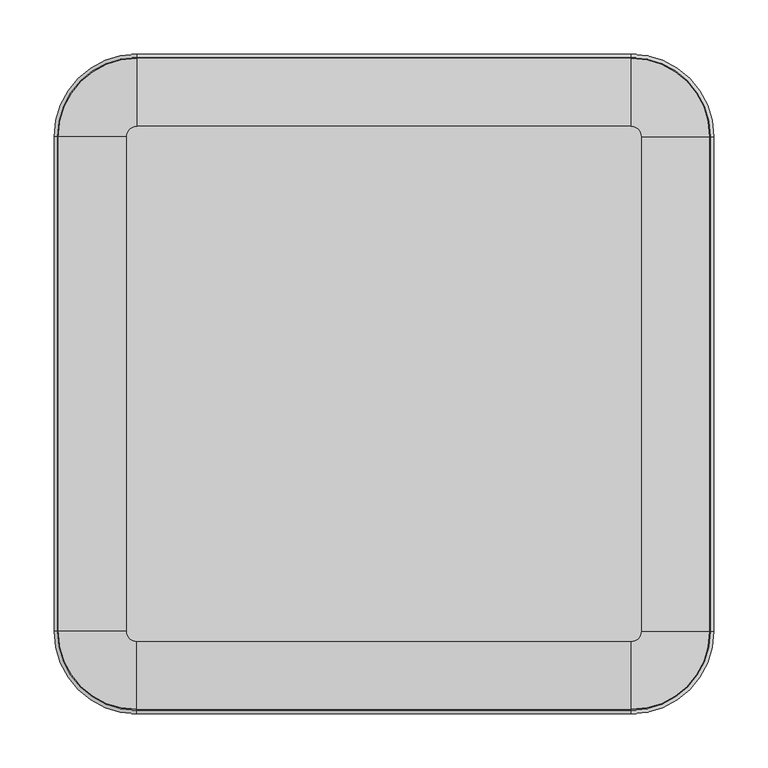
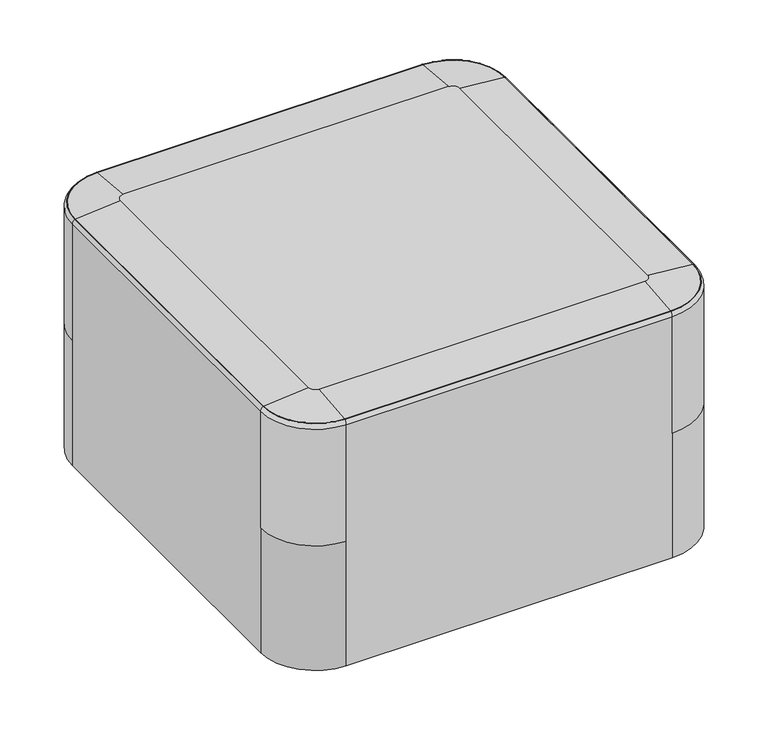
"""IFC4 building model written with IfcOpenShell, lengths in millimetres: furniture geometry, Indiana-Otty-Ottoman_Square : 840-2415SO."""

from ifc_helpers import new_model, si_unit, point, frame, origin, place, context, project, spatial, polyline, circle_curve, ellipse_curve, trimmed, source, transform, mapped, element, save
from ifc_brep_helpers import plane_surface, cylinder_surface, revolved_surface, advanced_brep


def furniture_f3731884(model_context):
    return source(origin(), model_context, "Body", "AdvancedBrep", [
        advanced_brep(
        [(0.0, -250.825, 19.8875), (0.0, -273.325, 19.8875), (0.0, -228.325, 19.8875), (0.0, -272.8765082, 4.2458827), (0.0, -228.7734918, 4.2458827), (0.0, -268.3913665, -0.1125), (0.0, -233.2586335, -0.1125), (0.0, -261.0926178, -0.1125), (0.0, -240.5573822, -0.1125), (0.0, -257.1981417, 3.9179615), (0.0, -244.4518583, 3.9179615), (0.0, -250.825, 3.9179615)],
        [
            (0, 1),
            (1, 2, circle_curve(frame((0.0, -250.825, 19.8875), z_axis=(0.0, 0.0, 1.0), x_axis=(0.0, -1.0, 0.0)), 22.5)),
            (2, 0),
            (2, 1, circle_curve(frame((0.0, -250.825, 19.8875), z_axis=(0.0, 0.0, 1.0), x_axis=(0.0, -1.0, 0.0)), 22.5)),
            (1, 3),
            (3, 4, circle_curve(frame((0.0, -250.825, 4.2458827), z_axis=(0.0, 0.0, 1.0), x_axis=(0.0, -1.0, 0.0)), 22.0515082)),
            (4, 2),
            (4, 3, circle_curve(frame((0.0, -250.825, 4.2458827), z_axis=(0.0, 0.0, 1.0), x_axis=(0.0, -1.0, 0.0)), 22.0515082)),
            (3, 5, circle_curve(frame((0.0, -268.3913665, 4.3744851), z_axis=(1.0, 0.0, 0.0), x_axis=(0.0, 1.0, 0.0)), 4.4869851)),
            (5, 6, circle_curve(frame((0.0, -250.825, -0.1125), z_axis=(0.0, 0.0, 1.0), x_axis=(0.0, -1.0, 0.0)), 17.5663665)),
            (6, 4, circle_curve(frame((0.0, -233.2586335, 4.3744851), z_axis=(1.0, 0.0, 0.0), x_axis=(0.0, -1.0, 0.0)), 4.4869851)),
            (6, 5, circle_curve(frame((0.0, -250.825, -0.1125), z_axis=(0.0, 0.0, 1.0), x_axis=(0.0, -1.0, 0.0)), 17.5663665)),
            (5, 7),
            (7, 8, circle_curve(frame((0.0, -250.825, -0.1125), z_axis=(0.0, 0.0, 1.0), x_axis=(0.0, -1.0, 0.0)), 10.2676178)),
            (8, 6),
            (8, 7, circle_curve(frame((0.0, -250.825, -0.1125), z_axis=(0.0, 0.0, 1.0), x_axis=(0.0, -1.0, 0.0)), 10.2676178)),
            (7, 9, circle_curve(frame((0.0, -261.0926178, 3.7842702), z_axis=(1.0, 0.0, 0.0), x_axis=(0.0, 1.0, 0.0)), 3.8967702)),
            (9, 10, circle_curve(frame((0.0, -250.825, 3.9179615), z_axis=(0.0, 0.0, 1.0), x_axis=(0.0, -1.0, 0.0)), 6.3731417)),
            (10, 8, circle_curve(frame((0.0, -240.5573822, 3.7842702), z_axis=(1.0, 0.0, 0.0), x_axis=(0.0, -1.0, 0.0)), 3.8967702)),
            (10, 9, circle_curve(frame((0.0, -250.825, 3.9179615), z_axis=(0.0, 0.0, 1.0), x_axis=(0.0, -1.0, 0.0)), 6.3731417)),
            (9, 11),
            (11, 10),
        ],
        [
            plane_surface(frame((0.0, -250.825, 19.8875), z_axis=(0.0, 0.0, 1.0), x_axis=(0.0, -1.0, 0.0))),
            revolved_surface(polyline([(0.0, -272.8765082, 4.2458827), (0.0, -273.325, 19.8875)]), (0.0, -250.825, 31.0803862), (0.0, 0.0, 1.0)),
            revolved_surface(trimmed(ellipse_curve(frame((0.0, -268.3913665, 4.3744851), z_axis=(-1.0, 0.0, 0.0), x_axis=(0.0, 1.0, 0.0)), 4.4869851, 4.4869851), [point((0.0, -268.3913665, -0.1125))], [point((0.0, -272.8765082, 4.2458827))], True, "CARTESIAN"), (0.0, -250.825, 31.0803862), (0.0, 0.0, 1.0)),
            plane_surface(frame((0.0, -250.825, -0.1125), z_axis=(0.0, 0.0, -1.0), x_axis=(0.0, -1.0, 0.0))),
            revolved_surface(trimmed(ellipse_curve(frame((0.0, -261.0926178, 3.7842702), z_axis=(-1.0, 0.0, 0.0), x_axis=(0.0, 1.0, 0.0)), 3.8967702, 3.8967702), [point((0.0, -257.1981417, 3.9179615))], [point((0.0, -261.0926178, -0.1125))], True, "CARTESIAN"), (0.0, -250.825, 31.0803862), (0.0, 0.0, 1.0)),
            plane_surface(frame((0.0, -250.825, 3.9179615), z_axis=(0.0, 0.0, -1.0), x_axis=(0.0, -1.0, 0.0))),
        ],
        [
            (0, [[1, 2, 3]]),
            (0, [[-3, 4, -1]]),
            (1, [[-2, 5, 6, 7]]),
            (1, [[-4, -7, 8, -5]]),
            (2, [[-6, 9, 10, 11]]),
            (2, [[-8, -11, 12, -9]]),
            (3, [[-10, 13, 14, 15]]),
            (3, [[-12, -15, 16, -13]]),
            (4, [[-14, 17, 18, 19]]),
            (4, [[-16, -19, 20, -17]]),
            (5, [[-18, 21, 22]]),
            (5, [[-20, -22, -21]]),
        ],
    ),
        advanced_brep(
        [(0.0, 250.825, 19.8875), (0.0, 228.325, 19.8875), (0.0, 273.325, 19.8875), (0.0, 228.7734918, 4.2458827), (0.0, 272.8765082, 4.2458827), (0.0, 233.2586335, -0.1125), (0.0, 268.3913665, -0.1125), (0.0, 240.5573822, -0.1125), (0.0, 261.0926178, -0.1125), (0.0, 244.4518583, 3.9179615), (0.0, 257.1981417, 3.9179615), (0.0, 250.825, 3.9179615)],
        [
            (0, 1),
            (1, 2, circle_curve(frame((0.0, 250.825, 19.8875), z_axis=(0.0, 0.0, 1.0), x_axis=(0.0, -1.0, 0.0)), 22.5)),
            (2, 0),
            (2, 1, circle_curve(frame((0.0, 250.825, 19.8875), z_axis=(0.0, 0.0, 1.0), x_axis=(0.0, -1.0, 0.0)), 22.5)),
            (1, 3),
            (3, 4, circle_curve(frame((0.0, 250.825, 4.2458827), z_axis=(0.0, 0.0, 1.0), x_axis=(0.0, -1.0, 0.0)), 22.0515082)),
            (4, 2),
            (4, 3, circle_curve(frame((0.0, 250.825, 4.2458827), z_axis=(0.0, 0.0, 1.0), x_axis=(0.0, -1.0, 0.0)), 22.0515082)),
            (3, 5, circle_curve(frame((0.0, 233.2586335, 4.3744851), z_axis=(1.0, 0.0, 0.0), x_axis=(0.0, 1.0, 0.0)), 4.4869851)),
            (5, 6, circle_curve(frame((0.0, 250.825, -0.1125), z_axis=(0.0, 0.0, 1.0), x_axis=(0.0, -1.0, 0.0)), 17.5663665)),
            (6, 4, circle_curve(frame((0.0, 268.3913665, 4.3744851), z_axis=(1.0, 0.0, 0.0), x_axis=(0.0, -1.0, 0.0)), 4.4869851)),
            (6, 5, circle_curve(frame((0.0, 250.825, -0.1125), z_axis=(0.0, 0.0, 1.0), x_axis=(0.0, -1.0, 0.0)), 17.5663665)),
            (5, 7),
            (7, 8, circle_curve(frame((0.0, 250.825, -0.1125), z_axis=(0.0, 0.0, 1.0), x_axis=(0.0, -1.0, 0.0)), 10.2676178)),
            (8, 6),
            (8, 7, circle_curve(frame((0.0, 250.825, -0.1125), z_axis=(0.0, 0.0, 1.0), x_axis=(0.0, -1.0, 0.0)), 10.2676178)),
            (7, 9, circle_curve(frame((0.0, 240.5573822, 3.7842702), z_axis=(1.0, 0.0, 0.0), x_axis=(0.0, 1.0, 0.0)), 3.8967702)),
            (9, 10, circle_curve(frame((0.0, 250.825, 3.9179615), z_axis=(0.0, 0.0, 1.0), x_axis=(0.0, -1.0, 0.0)), 6.3731417)),
            (10, 8, circle_curve(frame((0.0, 261.0926178, 3.7842702), z_axis=(1.0, 0.0, 0.0), x_axis=(0.0, -1.0, 0.0)), 3.8967702)),
            (10, 9, circle_curve(frame((0.0, 250.825, 3.9179615), z_axis=(0.0, 0.0, 1.0), x_axis=(0.0, -1.0, 0.0)), 6.3731417)),
            (9, 11),
            (11, 10),
        ],
        [
            plane_surface(frame((0.0, 250.825, 19.8875), z_axis=(0.0, 0.0, 1.0), x_axis=(0.0, -1.0, 0.0))),
            revolved_surface(polyline([(0.0, 228.7734918, 4.2458827), (0.0, 228.325, 19.8875)]), (0.0, 250.825, 31.0803862), (0.0, 0.0, 1.0)),
            revolved_surface(trimmed(ellipse_curve(frame((0.0, 233.2586335, 4.3744851), z_axis=(-1.0, 0.0, 0.0), x_axis=(0.0, 1.0, 0.0)), 4.4869851, 4.4869851), [point((0.0, 233.2586335, -0.1125))], [point((0.0, 228.7734918, 4.2458827))], True, "CARTESIAN"), (0.0, 250.825, 31.0803862), (0.0, 0.0, 1.0)),
            plane_surface(frame((0.0, 250.825, -0.1125), z_axis=(0.0, 0.0, -1.0), x_axis=(0.0, -1.0, 0.0))),
            revolved_surface(trimmed(ellipse_curve(frame((0.0, 240.5573822, 3.7842702), z_axis=(-1.0, 0.0, 0.0), x_axis=(0.0, 1.0, 0.0)), 3.8967702, 3.8967702), [point((0.0, 244.4518583, 3.9179615))], [point((0.0, 240.5573822, -0.1125))], True, "CARTESIAN"), (0.0, 250.825, 31.0803862), (0.0, 0.0, 1.0)),
            plane_surface(frame((0.0, 250.825, 3.9179615), z_axis=(0.0, 0.0, -1.0), x_axis=(0.0, -1.0, 0.0))),
        ],
        [
            (0, [[1, 2, 3]]),
            (0, [[-3, 4, -1]]),
            (1, [[-2, 5, 6, 7]]),
            (1, [[-4, -7, 8, -5]]),
            (2, [[-6, 9, 10, 11]]),
            (2, [[-8, -11, 12, -9]]),
            (3, [[-10, 13, 14, 15]]),
            (3, [[-12, -15, 16, -13]]),
            (4, [[-14, 17, 18, 19]]),
            (4, [[-16, -19, 20, -17]]),
            (5, [[-18, 21, 22]]),
            (5, [[-20, -22, -21]]),
        ],
    ),
        advanced_brep(
        [(250.825, -250.825, 19.8875), (250.825, -273.325, 19.8875), (250.825, -228.325, 19.8875), (250.825, -272.8765082, 4.2458827), (250.825, -228.7734918, 4.2458827), (250.825, -268.3913665, -0.1125), (250.825, -233.2586335, -0.1125), (250.825, -261.0926178, -0.1125), (250.825, -240.5573822, -0.1125), (250.825, -257.1981417, 3.9179615), (250.825, -244.4518583, 3.9179615), (250.825, -250.825, 3.9179615)],
        [
            (0, 1),
            (1, 2, circle_curve(frame((250.825, -250.825, 19.8875), z_axis=(0.0, 0.0, 1.0), x_axis=(0.0, -1.0, 0.0)), 22.5)),
            (2, 0),
            (2, 1, circle_curve(frame((250.825, -250.825, 19.8875), z_axis=(0.0, 0.0, 1.0), x_axis=(0.0, -1.0, 0.0)), 22.5)),
            (1, 3),
            (3, 4, circle_curve(frame((250.825, -250.825, 4.2458827), z_axis=(0.0, 0.0, 1.0), x_axis=(0.0, -1.0, 0.0)), 22.0515082)),
            (4, 2),
            (4, 3, circle_curve(frame((250.825, -250.825, 4.2458827), z_axis=(0.0, 0.0, 1.0), x_axis=(0.0, -1.0, 0.0)), 22.0515082)),
            (3, 5, circle_curve(frame((250.825, -268.3913665, 4.3744851), z_axis=(1.0, 0.0, 0.0), x_axis=(0.0, 1.0, 0.0)), 4.4869851)),
            (5, 6, circle_curve(frame((250.825, -250.825, -0.1125), z_axis=(0.0, 0.0, 1.0), x_axis=(0.0, -1.0, 0.0)), 17.5663665)),
            (6, 4, circle_curve(frame((250.825, -233.2586335, 4.3744851), z_axis=(1.0, 0.0, 0.0), x_axis=(0.0, -1.0, 0.0)), 4.4869851)),
            (6, 5, circle_curve(frame((250.825, -250.825, -0.1125), z_axis=(0.0, 0.0, 1.0), x_axis=(0.0, -1.0, 0.0)), 17.5663665)),
            (5, 7),
            (7, 8, circle_curve(frame((250.825, -250.825, -0.1125), z_axis=(0.0, 0.0, 1.0), x_axis=(0.0, -1.0, 0.0)), 10.2676178)),
            (8, 6),
            (8, 7, circle_curve(frame((250.825, -250.825, -0.1125), z_axis=(0.0, 0.0, 1.0), x_axis=(0.0, -1.0, 0.0)), 10.2676178)),
            (7, 9, circle_curve(frame((250.825, -261.0926178, 3.7842702), z_axis=(1.0, 0.0, 0.0), x_axis=(0.0, 1.0, 0.0)), 3.8967702)),
            (9, 10, circle_curve(frame((250.825, -250.825, 3.9179615), z_axis=(0.0, 0.0, 1.0), x_axis=(0.0, -1.0, 0.0)), 6.3731417)),
            (10, 8, circle_curve(frame((250.825, -240.5573822, 3.7842702), z_axis=(1.0, 0.0, 0.0), x_axis=(0.0, -1.0, 0.0)), 3.8967702)),
            (10, 9, circle_curve(frame((250.825, -250.825, 3.9179615), z_axis=(0.0, 0.0, 1.0), x_axis=(0.0, -1.0, 0.0)), 6.3731417)),
            (9, 11),
            (11, 10),
        ],
        [
            plane_surface(frame((250.825, -250.825, 19.8875), z_axis=(0.0, 0.0, 1.0), x_axis=(0.0, -1.0, 0.0))),
            revolved_surface(polyline([(250.825, -272.8765082, 4.2458827), (250.825, -273.325, 19.8875)]), (250.825, -250.825, 31.0803862), (0.0, 0.0, 1.0)),
            revolved_surface(trimmed(ellipse_curve(frame((250.825, -268.3913665, 4.3744851), z_axis=(-1.0, 0.0, 0.0), x_axis=(0.0, 1.0, 0.0)), 4.4869851, 4.4869851), [point((250.825, -268.3913665, -0.1125))], [point((250.825, -272.8765082, 4.2458827))], True, "CARTESIAN"), (250.825, -250.825, 31.0803862), (0.0, 0.0, 1.0)),
            plane_surface(frame((250.825, -250.825, -0.1125), z_axis=(0.0, 0.0, -1.0), x_axis=(0.0, -1.0, 0.0))),
            revolved_surface(trimmed(ellipse_curve(frame((250.825, -261.0926178, 3.7842702), z_axis=(-1.0, 0.0, 0.0), x_axis=(0.0, 1.0, 0.0)), 3.8967702, 3.8967702), [point((250.825, -257.1981417, 3.9179615))], [point((250.825, -261.0926178, -0.1125))], True, "CARTESIAN"), (250.825, -250.825, 31.0803862), (0.0, 0.0, 1.0)),
            plane_surface(frame((250.825, -250.825, 3.9179615), z_axis=(0.0, 0.0, -1.0), x_axis=(0.0, -1.0, 0.0))),
        ],
        [
            (0, [[1, 2, 3]]),
            (0, [[-3, 4, -1]]),
            (1, [[-2, 5, 6, 7]]),
            (1, [[-4, -7, 8, -5]]),
            (2, [[-6, 9, 10, 11]]),
            (2, [[-8, -11, 12, -9]]),
            (3, [[-10, 13, 14, 15]]),
            (3, [[-12, -15, 16, -13]]),
            (4, [[-14, 17, 18, 19]]),
            (4, [[-16, -19, 20, -17]]),
            (5, [[-18, 21, 22]]),
            (5, [[-20, -22, -21]]),
        ],
    ),
        advanced_brep(
        [(250.825, 250.825, 19.8875), (250.825, 228.325, 19.8875), (250.825, 273.325, 19.8875), (250.825, 228.7734918, 4.2458827), (250.825, 272.8765082, 4.2458827), (250.825, 233.2586335, -0.1125), (250.825, 268.3913665, -0.1125), (250.825, 240.5573822, -0.1125), (250.825, 261.0926178, -0.1125), (250.825, 244.4518583, 3.9179615), (250.825, 257.1981417, 3.9179615), (250.825, 250.825, 3.9179615)],
        [
            (0, 1),
            (1, 2, circle_curve(frame((250.825, 250.825, 19.8875), z_axis=(0.0, 0.0, 1.0), x_axis=(0.0, -1.0, 0.0)), 22.5)),
            (2, 0),
            (2, 1, circle_curve(frame((250.825, 250.825, 19.8875), z_axis=(0.0, 0.0, 1.0), x_axis=(0.0, -1.0, 0.0)), 22.5)),
            (1, 3),
            (3, 4, circle_curve(frame((250.825, 250.825, 4.2458827), z_axis=(0.0, 0.0, 1.0), x_axis=(0.0, -1.0, 0.0)), 22.0515082)),
            (4, 2),
            (4, 3, circle_curve(frame((250.825, 250.825, 4.2458827), z_axis=(0.0, 0.0, 1.0), x_axis=(0.0, -1.0, 0.0)), 22.0515082)),
            (3, 5, circle_curve(frame((250.825, 233.2586335, 4.3744851), z_axis=(1.0, 0.0, 0.0), x_axis=(0.0, 1.0, 0.0)), 4.4869851)),
            (5, 6, circle_curve(frame((250.825, 250.825, -0.1125), z_axis=(0.0, 0.0, 1.0), x_axis=(0.0, -1.0, 0.0)), 17.5663665)),
            (6, 4, circle_curve(frame((250.825, 268.3913665, 4.3744851), z_axis=(1.0, 0.0, 0.0), x_axis=(0.0, -1.0, 0.0)), 4.4869851)),
            (6, 5, circle_curve(frame((250.825, 250.825, -0.1125), z_axis=(0.0, 0.0, 1.0), x_axis=(0.0, -1.0, 0.0)), 17.5663665)),
            (5, 7),
            (7, 8, circle_curve(frame((250.825, 250.825, -0.1125), z_axis=(0.0, 0.0, 1.0), x_axis=(0.0, -1.0, 0.0)), 10.2676178)),
            (8, 6),
            (8, 7, circle_curve(frame((250.825, 250.825, -0.1125), z_axis=(0.0, 0.0, 1.0), x_axis=(0.0, -1.0, 0.0)), 10.2676178)),
            (7, 9, circle_curve(frame((250.825, 240.5573822, 3.7842702), z_axis=(1.0, 0.0, 0.0), x_axis=(0.0, 1.0, 0.0)), 3.8967702)),
            (9, 10, circle_curve(frame((250.825, 250.825, 3.9179615), z_axis=(0.0, 0.0, 1.0), x_axis=(0.0, -1.0, 0.0)), 6.3731417)),
            (10, 8, circle_curve(frame((250.825, 261.0926178, 3.7842702), z_axis=(1.0, 0.0, 0.0), x_axis=(0.0, -1.0, 0.0)), 3.8967702)),
            (10, 9, circle_curve(frame((250.825, 250.825, 3.9179615), z_axis=(0.0, 0.0, 1.0), x_axis=(0.0, -1.0, 0.0)), 6.3731417)),
            (9, 11),
            (11, 10),
        ],
        [
            plane_surface(frame((250.825, 250.825, 19.8875), z_axis=(0.0, 0.0, 1.0), x_axis=(0.0, -1.0, 0.0))),
            revolved_surface(polyline([(250.825, 228.7734918, 4.2458827), (250.825, 228.325, 19.8875)]), (250.825, 250.825, 31.0803862), (0.0, 0.0, 1.0)),
            revolved_surface(trimmed(ellipse_curve(frame((250.825, 233.2586335, 4.3744851), z_axis=(-1.0, 0.0, 0.0), x_axis=(0.0, 1.0, 0.0)), 4.4869851, 4.4869851), [point((250.825, 233.2586335, -0.1125))], [point((250.825, 228.7734918, 4.2458827))], True, "CARTESIAN"), (250.825, 250.825, 31.0803862), (0.0, 0.0, 1.0)),
            plane_surface(frame((250.825, 250.825, -0.1125), z_axis=(0.0, 0.0, -1.0), x_axis=(0.0, -1.0, 0.0))),
            revolved_surface(trimmed(ellipse_curve(frame((250.825, 240.5573822, 3.7842702), z_axis=(-1.0, 0.0, 0.0), x_axis=(0.0, 1.0, 0.0)), 3.8967702, 3.8967702), [point((250.825, 244.4518583, 3.9179615))], [point((250.825, 240.5573822, -0.1125))], True, "CARTESIAN"), (250.825, 250.825, 31.0803862), (0.0, 0.0, 1.0)),
            plane_surface(frame((250.825, 250.825, 3.9179615), z_axis=(0.0, 0.0, -1.0), x_axis=(0.0, -1.0, 0.0))),
        ],
        [
            (0, [[1, 2, 3]]),
            (0, [[-3, 4, -1]]),
            (1, [[-2, 5, 6, 7]]),
            (1, [[-4, -7, 8, -5]]),
            (2, [[-6, 9, 10, 11]]),
            (2, [[-8, -11, 12, -9]]),
            (3, [[-10, 13, 14, 15]]),
            (3, [[-12, -15, 16, -13]]),
            (4, [[-14, 17, 18, 19]]),
            (4, [[-16, -19, 20, -17]]),
            (5, [[-18, 21, 22]]),
            (5, [[-20, -22, -21]]),
        ],
    ),
        advanced_brep(
        [(-250.825, -250.825, 19.8875), (-250.825, -273.325, 19.8875), (-250.825, -228.325, 19.8875), (-250.825, -272.8765082, 4.2458827), (-250.825, -228.7734918, 4.2458827), (-250.825, -268.3913665, -0.1125), (-250.825, -233.2586335, -0.1125), (-250.825, -261.0926178, -0.1125), (-250.825, -240.5573822, -0.1125), (-250.825, -257.1981417, 3.9179615), (-250.825, -244.4518583, 3.9179615), (-250.825, -250.825, 3.9179615)],
        [
            (0, 1),
            (1, 2, circle_curve(frame((-250.825, -250.825, 19.8875), z_axis=(0.0, 0.0, 1.0), x_axis=(0.0, -1.0, 0.0)), 22.5)),
            (2, 0),
            (2, 1, circle_curve(frame((-250.825, -250.825, 19.8875), z_axis=(0.0, 0.0, 1.0), x_axis=(0.0, -1.0, 0.0)), 22.5)),
            (1, 3),
            (3, 4, circle_curve(frame((-250.825, -250.825, 4.2458827), z_axis=(0.0, 0.0, 1.0), x_axis=(0.0, -1.0, 0.0)), 22.0515082)),
            (4, 2),
            (4, 3, circle_curve(frame((-250.825, -250.825, 4.2458827), z_axis=(0.0, 0.0, 1.0), x_axis=(0.0, -1.0, 0.0)), 22.0515082)),
            (3, 5, circle_curve(frame((-250.825, -268.3913665, 4.3744851), z_axis=(1.0, 0.0, 0.0), x_axis=(0.0, 1.0, 0.0)), 4.4869851)),
            (5, 6, circle_curve(frame((-250.825, -250.825, -0.1125), z_axis=(0.0, 0.0, 1.0), x_axis=(0.0, -1.0, 0.0)), 17.5663665)),
            (6, 4, circle_curve(frame((-250.825, -233.2586335, 4.3744851), z_axis=(1.0, 0.0, 0.0), x_axis=(0.0, -1.0, 0.0)), 4.4869851)),
            (6, 5, circle_curve(frame((-250.825, -250.825, -0.1125), z_axis=(0.0, 0.0, 1.0), x_axis=(0.0, -1.0, 0.0)), 17.5663665)),
            (5, 7),
            (7, 8, circle_curve(frame((-250.825, -250.825, -0.1125), z_axis=(0.0, 0.0, 1.0), x_axis=(0.0, -1.0, 0.0)), 10.2676178)),
            (8, 6),
            (8, 7, circle_curve(frame((-250.825, -250.825, -0.1125), z_axis=(0.0, 0.0, 1.0), x_axis=(0.0, -1.0, 0.0)), 10.2676178)),
            (7, 9, circle_curve(frame((-250.825, -261.0926178, 3.7842702), z_axis=(1.0, 0.0, 0.0), x_axis=(0.0, 1.0, 0.0)), 3.8967702)),
            (9, 10, circle_curve(frame((-250.825, -250.825, 3.9179615), z_axis=(0.0, 0.0, 1.0), x_axis=(0.0, -1.0, 0.0)), 6.3731417)),
            (10, 8, circle_curve(frame((-250.825, -240.5573822, 3.7842702), z_axis=(1.0, 0.0, 0.0), x_axis=(0.0, -1.0, 0.0)), 3.8967702)),
            (10, 9, circle_curve(frame((-250.825, -250.825, 3.9179615), z_axis=(0.0, 0.0, 1.0), x_axis=(0.0, -1.0, 0.0)), 6.3731417)),
            (9, 11),
            (11, 10),
        ],
        [
            plane_surface(frame((-250.825, -250.825, 19.8875), z_axis=(0.0, 0.0, 1.0), x_axis=(0.0, -1.0, 0.0))),
            revolved_surface(polyline([(-250.825, -272.8765082, 4.2458827), (-250.825, -273.325, 19.8875)]), (-250.825, -250.825, 31.0803862), (0.0, 0.0, 1.0)),
            revolved_surface(trimmed(ellipse_curve(frame((-250.825, -268.3913665, 4.3744851), z_axis=(-1.0, 0.0, 0.0), x_axis=(0.0, 1.0, 0.0)), 4.4869851, 4.4869851), [point((-250.825, -268.3913665, -0.1125))], [point((-250.825, -272.8765082, 4.2458827))], True, "CARTESIAN"), (-250.825, -250.825, 31.0803862), (0.0, 0.0, 1.0)),
            plane_surface(frame((-250.825, -250.825, -0.1125), z_axis=(0.0, 0.0, -1.0), x_axis=(0.0, -1.0, 0.0))),
            revolved_surface(trimmed(ellipse_curve(frame((-250.825, -261.0926178, 3.7842702), z_axis=(-1.0, 0.0, 0.0), x_axis=(0.0, 1.0, 0.0)), 3.8967702, 3.8967702), [point((-250.825, -257.1981417, 3.9179615))], [point((-250.825, -261.0926178, -0.1125))], True, "CARTESIAN"), (-250.825, -250.825, 31.0803862), (0.0, 0.0, 1.0)),
            plane_surface(frame((-250.825, -250.825, 3.9179615), z_axis=(0.0, 0.0, -1.0), x_axis=(0.0, -1.0, 0.0))),
        ],
        [
            (0, [[1, 2, 3]]),
            (0, [[-3, 4, -1]]),
            (1, [[-2, 5, 6, 7]]),
            (1, [[-4, -7, 8, -5]]),
            (2, [[-6, 9, 10, 11]]),
            (2, [[-8, -11, 12, -9]]),
            (3, [[-10, 13, 14, 15]]),
            (3, [[-12, -15, 16, -13]]),
            (4, [[-14, 17, 18, 19]]),
            (4, [[-16, -19, 20, -17]]),
            (5, [[-18, 21, 22]]),
            (5, [[-20, -22, -21]]),
        ],
    ),
        advanced_brep(
        [(-250.825, 250.825, 19.8875), (-250.825, 228.325, 19.8875), (-250.825, 273.325, 19.8875), (-250.825, 228.7734918, 4.2458827), (-250.825, 272.8765082, 4.2458827), (-250.825, 233.2586335, -0.1125), (-250.825, 268.3913665, -0.1125), (-250.825, 240.5573822, -0.1125), (-250.825, 261.0926178, -0.1125), (-250.825, 244.4518583, 3.9179615), (-250.825, 257.1981417, 3.9179615), (-250.825, 250.825, 3.9179615)],
        [
            (0, 1),
            (1, 2, circle_curve(frame((-250.825, 250.825, 19.8875), z_axis=(0.0, 0.0, 1.0), x_axis=(0.0, -1.0, 0.0)), 22.5)),
            (2, 0),
            (2, 1, circle_curve(frame((-250.825, 250.825, 19.8875), z_axis=(0.0, 0.0, 1.0), x_axis=(0.0, -1.0, 0.0)), 22.5)),
            (1, 3),
            (3, 4, circle_curve(frame((-250.825, 250.825, 4.2458827), z_axis=(0.0, 0.0, 1.0), x_axis=(0.0, -1.0, 0.0)), 22.0515082)),
            (4, 2),
            (4, 3, circle_curve(frame((-250.825, 250.825, 4.2458827), z_axis=(0.0, 0.0, 1.0), x_axis=(0.0, -1.0, 0.0)), 22.0515082)),
            (3, 5, circle_curve(frame((-250.825, 233.2586335, 4.3744851), z_axis=(1.0, 0.0, 0.0), x_axis=(0.0, 1.0, 0.0)), 4.4869851)),
            (5, 6, circle_curve(frame((-250.825, 250.825, -0.1125), z_axis=(0.0, 0.0, 1.0), x_axis=(0.0, -1.0, 0.0)), 17.5663665)),
            (6, 4, circle_curve(frame((-250.825, 268.3913665, 4.3744851), z_axis=(1.0, 0.0, 0.0), x_axis=(0.0, -1.0, 0.0)), 4.4869851)),
            (6, 5, circle_curve(frame((-250.825, 250.825, -0.1125), z_axis=(0.0, 0.0, 1.0), x_axis=(0.0, -1.0, 0.0)), 17.5663665)),
            (5, 7),
            (7, 8, circle_curve(frame((-250.825, 250.825, -0.1125), z_axis=(0.0, 0.0, 1.0), x_axis=(0.0, -1.0, 0.0)), 10.2676178)),
            (8, 6),
            (8, 7, circle_curve(frame((-250.825, 250.825, -0.1125), z_axis=(0.0, 0.0, 1.0), x_axis=(0.0, -1.0, 0.0)), 10.2676178)),
            (7, 9, circle_curve(frame((-250.825, 240.5573822, 3.7842702), z_axis=(1.0, 0.0, 0.0), x_axis=(0.0, 1.0, 0.0)), 3.8967702)),
            (9, 10, circle_curve(frame((-250.825, 250.825, 3.9179615), z_axis=(0.0, 0.0, 1.0), x_axis=(0.0, -1.0, 0.0)), 6.3731417)),
            (10, 8, circle_curve(frame((-250.825, 261.0926178, 3.7842702), z_axis=(1.0, 0.0, 0.0), x_axis=(0.0, -1.0, 0.0)), 3.8967702)),
            (10, 9, circle_curve(frame((-250.825, 250.825, 3.9179615), z_axis=(0.0, 0.0, 1.0), x_axis=(0.0, -1.0, 0.0)), 6.3731417)),
            (9, 11),
            (11, 10),
        ],
        [
            plane_surface(frame((-250.825, 250.825, 19.8875), z_axis=(0.0, 0.0, 1.0), x_axis=(0.0, -1.0, 0.0))),
            revolved_surface(polyline([(-250.825, 228.7734918, 4.2458827), (-250.825, 228.325, 19.8875)]), (-250.825, 250.825, 31.0803862), (0.0, 0.0, 1.0)),
            revolved_surface(trimmed(ellipse_curve(frame((-250.825, 233.2586335, 4.3744851), z_axis=(-1.0, 0.0, 0.0), x_axis=(0.0, 1.0, 0.0)), 4.4869851, 4.4869851), [point((-250.825, 233.2586335, -0.1125))], [point((-250.825, 228.7734918, 4.2458827))], True, "CARTESIAN"), (-250.825, 250.825, 31.0803862), (0.0, 0.0, 1.0)),
            plane_surface(frame((-250.825, 250.825, -0.1125), z_axis=(0.0, 0.0, -1.0), x_axis=(0.0, -1.0, 0.0))),
            revolved_surface(trimmed(ellipse_curve(frame((-250.825, 240.5573822, 3.7842702), z_axis=(-1.0, 0.0, 0.0), x_axis=(0.0, 1.0, 0.0)), 3.8967702, 3.8967702), [point((-250.825, 244.4518583, 3.9179615))], [point((-250.825, 240.5573822, -0.1125))], True, "CARTESIAN"), (-250.825, 250.825, 31.0803862), (0.0, 0.0, 1.0)),
            plane_surface(frame((-250.825, 250.825, 3.9179615), z_axis=(0.0, 0.0, -1.0), x_axis=(0.0, -1.0, 0.0))),
        ],
        [
            (0, [[1, 2, 3]]),
            (0, [[-3, 4, -1]]),
            (1, [[-2, 5, 6, 7]]),
            (1, [[-4, -7, 8, -5]]),
            (2, [[-6, 9, 10, 11]]),
            (2, [[-8, -11, 12, -9]]),
            (3, [[-10, 13, 14, 15]]),
            (3, [[-12, -15, 16, -13]]),
            (4, [[-14, 17, 18, 19]]),
            (4, [[-16, -19, 20, -17]]),
            (5, [[-18, 21, 22]]),
            (5, [[-20, -22, -21]]),
        ],
    ),
        advanced_brep(
        [(300.8, 228.6, 374.9999966), (228.6, 300.8, 374.9999966), (228.6, 238.125, 381.0), (238.125, 228.6, 381.0), (301.5317905, 228.6, 375.2073863), (228.6, 301.5317905, 375.2073863), (304.8, 228.6, 369.0), (228.6, 304.8, 369.0), (304.8, 228.6, 196.25), (228.6, 304.8, 196.25), (238.125, -228.6, 381.0), (300.8, -228.6, 374.9999966), (301.5317905, -228.6, 375.2073863), (304.8, -228.6, 369.0), (304.8, -228.6, 196.25), (304.8, -228.6, 11.5), (304.8, 228.6, 11.5), (228.6, -238.125, 381.0), (228.6, -300.8, 374.9999966), (228.6, -301.5317905, 375.2073863), (228.6, -304.8, 369.0), (228.6, -304.8, 196.25), (-228.6, -238.125, 381.0), (-228.6, -300.8, 374.9999966), (-228.6, -301.5317905, 375.2073863), (-228.6, -304.8, 369.0), (-228.6, -304.8, 196.25), (-228.6, -304.8, 11.5), (228.6, -304.8, 11.5), (-238.125, -228.6, 381.0), (-300.8, -228.6, 374.9999966), (-301.5317905, -228.6, 375.2073863), (-304.8, -228.6, 369.0), (-304.8, -228.6, 196.25), (-238.125, 228.6, 381.0), (-300.8, 228.6, 374.9999966), (-301.5317905, 228.6, 375.2073863), (-304.8, 228.6, 369.0), (-304.8, 228.6, 196.25), (-304.8, 228.6, 11.5), (-304.8, -228.6, 11.5), (-228.6, 238.125, 381.0), (-228.6, 300.8, 374.9999966), (-228.6, 301.5317905, 375.2073863), (-228.6, 304.8, 369.0), (-228.6, 304.8, 196.25), (228.6, 304.8, 11.5), (-228.6, 304.8, 11.5), (-273.84375, -250.825, 11.5), (-227.80625, -250.825, 11.5), (-273.84375, 250.825, 11.5), (-227.80625, 250.825, 11.5), (227.80625, 250.825, 11.5), (273.84375, 250.825, 11.5), (227.80625, -250.825, 11.5), (273.84375, -250.825, 11.5), (-23.01875, 250.825, 11.5), (23.01875, 250.825, 11.5), (-23.01875, -250.825, 11.5), (23.01875, -250.825, 11.5), (-227.80625, -250.825, 19.834375), (-273.84375, -250.825, 19.834375), (-227.80625, 250.825, 19.834375), (-273.84375, 250.825, 19.834375), (227.80625, 250.825, 19.834375), (273.84375, 250.825, 19.834375), (227.80625, -250.825, 19.834375), (273.84375, -250.825, 19.834375), (-23.01875, 250.825, 19.834375), (23.01875, 250.825, 19.834375), (-23.01875, -250.825, 19.834375), (23.01875, -250.825, 19.834375)],
        [
            (0, 1, circle_curve(frame((228.6, 228.6, 374.9999966), z_axis=(0.0, 0.0, 1.0), x_axis=(0.0, 1.0, 0.0)), 72.2)),
            (1, 2, circle_curve(frame((228.6, 238.125, 50.6538794), z_axis=(1.0, 0.0, 0.0), x_axis=(0.0, 1.0, 0.0)), 330.3461206)),
            (2, 3, circle_curve(frame((228.6, 228.6, 381.0), z_axis=(0.0, 0.0, -1.0), x_axis=(0.0, 1.0, 0.0)), 9.525)),
            (3, 0, circle_curve(frame((238.125, 228.6, 50.6538794), z_axis=(0.0, 1.0, 0.0), x_axis=(1.0, 0.0, 0.0)), 330.3461206)),
            (0, 4, circle_curve(frame((301.2520185, 228.6, 374.799799), z_axis=(0.0, 1.0, 0.0), x_axis=(1.0, 0.0, 0.0)), 0.4943681)),
            (4, 5, circle_curve(frame((228.6, 228.6, 375.2073863), z_axis=(0.0, 0.0, 1.0), x_axis=(0.0, 1.0, 0.0)), 72.9317905)),
            (5, 1, circle_curve(frame((228.6, 301.2520185, 374.799799), z_axis=(1.0, 0.0, 0.0), x_axis=(0.0, 1.0, 0.0)), 0.4943681)),
            (4, 6, circle_curve(frame((297.2709786, 228.6, 369.0), z_axis=(0.0, 1.0, 0.0), x_axis=(1.0, 0.0, 0.0)), 7.5290214)),
            (6, 7, circle_curve(frame((228.6, 228.6, 369.0), z_axis=(0.0, 0.0, 1.0), x_axis=(0.0, 1.0, 0.0)), 76.2)),
            (7, 5, circle_curve(frame((228.6, 297.2709786, 369.0), z_axis=(1.0, 0.0, 0.0), x_axis=(0.0, 1.0, 0.0)), 7.5290214)),
            (6, 8),
            (8, 9, circle_curve(frame((228.6, 228.6, 196.25), z_axis=(0.0, 0.0, 1.0), x_axis=(0.0, 1.0, 0.0)), 76.2)),
            (9, 7),
            (3, 10),
            (10, 11, circle_curve(frame((238.125, -228.6, 50.6538794), z_axis=(0.0, 1.0, 0.0), x_axis=(1.0, 0.0, 0.0)), 330.3461206)),
            (11, 0),
            (11, 12, circle_curve(frame((301.2520185, -228.6, 374.799799), z_axis=(0.0, 1.0, 0.0), x_axis=(1.0, 0.0, 0.0)), 0.4943681)),
            (12, 4),
            (12, 13, circle_curve(frame((297.2709786, -228.6, 369.0), z_axis=(0.0, 1.0, 0.0), x_axis=(1.0, 0.0, 0.0)), 7.5290214)),
            (13, 6),
            (13, 14),
            (14, 15),
            (15, 16),
            (16, 8),
            (10, 17, circle_curve(frame((228.6, -228.6, 381.0), z_axis=(0.0, 0.0, -1.0), x_axis=(1.0, 0.0, 0.0)), 9.525)),
            (17, 18, circle_curve(frame((228.6, -238.125, 50.6538794), z_axis=(1.0, 0.0, 0.0), x_axis=(0.0, -1.0, 0.0)), 330.3461206)),
            (18, 11, circle_curve(frame((228.6, -228.6, 374.9999966), z_axis=(0.0, 0.0, 1.0), x_axis=(1.0, 0.0, 0.0)), 72.2)),
            (18, 19, circle_curve(frame((228.6, -301.2520185, 374.799799), z_axis=(1.0, 0.0, 0.0), x_axis=(0.0, -1.0, 0.0)), 0.4943681)),
            (19, 12, circle_curve(frame((228.6, -228.6, 375.2073863), z_axis=(0.0, 0.0, 1.0), x_axis=(1.0, 0.0, 0.0)), 72.9317905)),
            (19, 20, circle_curve(frame((228.6, -297.2709786, 369.0), z_axis=(1.0, 0.0, 0.0), x_axis=(0.0, -1.0, 0.0)), 7.5290214)),
            (20, 13, circle_curve(frame((228.6, -228.6, 369.0), z_axis=(0.0, 0.0, 1.0), x_axis=(1.0, 0.0, 0.0)), 76.2)),
            (20, 21),
            (21, 14, circle_curve(frame((228.6, -228.6, 196.25), z_axis=(0.0, 0.0, 1.0), x_axis=(1.0, 0.0, 0.0)), 76.2)),
            (17, 22),
            (22, 23, circle_curve(frame((-228.6, -238.125, 50.6538794), z_axis=(1.0, 0.0, 0.0), x_axis=(0.0, -1.0, 0.0)), 330.3461206)),
            (23, 18),
            (23, 24, circle_curve(frame((-228.6, -301.2520185, 374.799799), z_axis=(1.0, 0.0, 0.0), x_axis=(0.0, -1.0, 0.0)), 0.4943681)),
            (24, 19),
            (24, 25, circle_curve(frame((-228.6, -297.2709786, 369.0), z_axis=(1.0, 0.0, 0.0), x_axis=(0.0, -1.0, 0.0)), 7.5290214)),
            (25, 20),
            (25, 26),
            (26, 27),
            (27, 28),
            (28, 21),
            (22, 29, circle_curve(frame((-228.6, -228.6, 381.0), z_axis=(0.0, 0.0, -1.0), x_axis=(0.0, -1.0, 0.0)), 9.525)),
            (29, 30, circle_curve(frame((-238.125, -228.6, 50.6538794), z_axis=(0.0, -1.0, 0.0), x_axis=(-1.0, 0.0, 0.0)), 330.3461206)),
            (30, 23, circle_curve(frame((-228.6, -228.6, 374.9999966), z_axis=(0.0, 0.0, 1.0), x_axis=(0.0, -1.0, 0.0)), 72.2)),
            (30, 31, circle_curve(frame((-301.2520185, -228.6, 374.799799), z_axis=(0.0, -1.0, 0.0), x_axis=(-1.0, 0.0, 0.0)), 0.4943681)),
            (31, 24, circle_curve(frame((-228.6, -228.6, 375.2073863), z_axis=(0.0, 0.0, 1.0), x_axis=(0.0, -1.0, 0.0)), 72.9317905)),
            (31, 32, circle_curve(frame((-297.2709786, -228.6, 369.0), z_axis=(0.0, -1.0, 0.0), x_axis=(-1.0, 0.0, 0.0)), 7.5290214)),
            (32, 25, circle_curve(frame((-228.6, -228.6, 369.0), z_axis=(0.0, 0.0, 1.0), x_axis=(0.0, -1.0, 0.0)), 76.2)),
            (32, 33),
            (33, 26, circle_curve(frame((-228.6, -228.6, 196.25), z_axis=(0.0, 0.0, 1.0), x_axis=(0.0, -1.0, 0.0)), 76.2)),
            (29, 34),
            (34, 35, circle_curve(frame((-238.125, 228.6, 50.6538794), z_axis=(0.0, -1.0, 0.0), x_axis=(-1.0, 0.0, 0.0)), 330.3461206)),
            (35, 30),
            (35, 36, circle_curve(frame((-301.2520185, 228.6, 374.799799), z_axis=(0.0, -1.0, 0.0), x_axis=(-1.0, 0.0, 0.0)), 0.4943681)),
            (36, 31),
            (36, 37, circle_curve(frame((-297.2709786, 228.6, 369.0), z_axis=(0.0, -1.0, 0.0), x_axis=(-1.0, 0.0, 0.0)), 7.5290214)),
            (37, 32),
            (37, 38),
            (38, 39),
            (39, 40),
            (40, 33),
            (34, 41, circle_curve(frame((-228.6, 228.6, 381.0), z_axis=(0.0, 0.0, -1.0), x_axis=(-1.0, 0.0, 0.0)), 9.525)),
            (41, 42, circle_curve(frame((-228.6, 238.125, 50.6538794), z_axis=(-1.0, 0.0, 0.0), x_axis=(0.0, 1.0, 0.0)), 330.3461206)),
            (42, 35, circle_curve(frame((-228.6, 228.6, 374.9999966), z_axis=(0.0, 0.0, 1.0), x_axis=(-1.0, 0.0, 0.0)), 72.2)),
            (42, 43, circle_curve(frame((-228.6, 301.2520185, 374.799799), z_axis=(-1.0, 0.0, 0.0), x_axis=(0.0, 1.0, 0.0)), 0.4943681)),
            (43, 36, circle_curve(frame((-228.6, 228.6, 375.2073863), z_axis=(0.0, 0.0, 1.0), x_axis=(-1.0, 0.0, 0.0)), 72.9317905)),
            (43, 44, circle_curve(frame((-228.6, 297.2709786, 369.0), z_axis=(-1.0, 0.0, 0.0), x_axis=(0.0, 1.0, 0.0)), 7.5290214)),
            (44, 37, circle_curve(frame((-228.6, 228.6, 369.0), z_axis=(0.0, 0.0, 1.0), x_axis=(-1.0, 0.0, 0.0)), 76.2)),
            (44, 45),
            (45, 38, circle_curve(frame((-228.6, 228.6, 196.25), z_axis=(0.0, 0.0, 1.0), x_axis=(-1.0, 0.0, 0.0)), 76.2)),
            (2, 41),
            (1, 42),
            (5, 43),
            (7, 44),
            (9, 46),
            (46, 47),
            (47, 45),
            (46, 16, circle_curve(frame((228.6, 228.6, 11.5), z_axis=(0.0, 0.0, -1.0), x_axis=(1.0, 0.0, 0.0)), 76.2)),
            (15, 28, circle_curve(frame((228.6, -228.6, 11.5), z_axis=(0.0, 0.0, -1.0), x_axis=(1.0, 0.0, 0.0)), 76.2)),
            (27, 40, circle_curve(frame((-228.6, -228.6, 11.5), z_axis=(0.0, 0.0, -1.0), x_axis=(1.0, 0.0, 0.0)), 76.2)),
            (39, 47, circle_curve(frame((-228.6, 228.6, 11.5), z_axis=(0.0, 0.0, -1.0), x_axis=(1.0, 0.0, 0.0)), 76.2)),
            (48, 49, circle_curve(frame((-250.825, -250.825, 11.5), z_axis=(0.0, 0.0, 1.0), x_axis=(-1.0, 0.0, 0.0)), 23.01875)),
            (49, 48, circle_curve(frame((-250.825, -250.825, 11.5), z_axis=(0.0, 0.0, 1.0), x_axis=(-1.0, 0.0, 0.0)), 23.01875)),
            (50, 51, circle_curve(frame((-250.825, 250.825, 11.5), z_axis=(0.0, 0.0, 1.0), x_axis=(-1.0, 0.0, 0.0)), 23.01875)),
            (51, 50, circle_curve(frame((-250.825, 250.825, 11.5), z_axis=(0.0, 0.0, 1.0), x_axis=(-1.0, 0.0, 0.0)), 23.01875)),
            (52, 53, circle_curve(frame((250.825, 250.825, 11.5), z_axis=(0.0, 0.0, 1.0), x_axis=(-1.0, 0.0, 0.0)), 23.01875)),
            (53, 52, circle_curve(frame((250.825, 250.825, 11.5), z_axis=(0.0, 0.0, 1.0), x_axis=(-1.0, 0.0, 0.0)), 23.01875)),
            (54, 55, circle_curve(frame((250.825, -250.825, 11.5), z_axis=(0.0, 0.0, 1.0), x_axis=(-1.0, 0.0, 0.0)), 23.01875)),
            (55, 54, circle_curve(frame((250.825, -250.825, 11.5), z_axis=(0.0, 0.0, 1.0), x_axis=(-1.0, 0.0, 0.0)), 23.01875)),
            (56, 57, circle_curve(frame((0.0, 250.825, 11.5), z_axis=(0.0, 0.0, 1.0), x_axis=(-1.0, 0.0, 0.0)), 23.01875)),
            (57, 56, circle_curve(frame((0.0, 250.825, 11.5), z_axis=(0.0, 0.0, 1.0), x_axis=(-1.0, 0.0, 0.0)), 23.01875)),
            (58, 59, circle_curve(frame((0.0, -250.825, 11.5), z_axis=(0.0, 0.0, 1.0), x_axis=(-1.0, 0.0, 0.0)), 23.01875)),
            (59, 58, circle_curve(frame((0.0, -250.825, 11.5), z_axis=(0.0, 0.0, 1.0), x_axis=(-1.0, 0.0, 0.0)), 23.01875)),
            (60, 61, circle_curve(frame((-250.825, -250.825, 19.834375), z_axis=(0.0, 0.0, -1.0), x_axis=(-1.0, 0.0, 0.0)), 23.01875)),
            (61, 60, circle_curve(frame((-250.825, -250.825, 19.834375), z_axis=(0.0, 0.0, -1.0), x_axis=(-1.0, 0.0, 0.0)), 23.01875)),
            (48, 61),
            (60, 49),
            (62, 63, circle_curve(frame((-250.825, 250.825, 19.834375), z_axis=(0.0, 0.0, -1.0), x_axis=(-1.0, 0.0, 0.0)), 23.01875)),
            (63, 62, circle_curve(frame((-250.825, 250.825, 19.834375), z_axis=(0.0, 0.0, -1.0), x_axis=(-1.0, 0.0, 0.0)), 23.01875)),
            (50, 63),
            (62, 51),
            (52, 64),
            (64, 65, circle_curve(frame((250.825, 250.825, 19.834375), z_axis=(0.0, 0.0, 1.0), x_axis=(-1.0, 0.0, 0.0)), 23.01875)),
            (65, 53),
            (65, 64, circle_curve(frame((250.825, 250.825, 19.834375), z_axis=(0.0, 0.0, 1.0), x_axis=(-1.0, 0.0, 0.0)), 23.01875)),
            (54, 66),
            (66, 67, circle_curve(frame((250.825, -250.825, 19.834375), z_axis=(0.0, 0.0, 1.0), x_axis=(-1.0, 0.0, 0.0)), 23.01875)),
            (67, 55),
            (67, 66, circle_curve(frame((250.825, -250.825, 19.834375), z_axis=(0.0, 0.0, 1.0), x_axis=(-1.0, 0.0, 0.0)), 23.01875)),
            (56, 68),
            (68, 69, circle_curve(frame((0.0, 250.825, 19.834375), z_axis=(0.0, 0.0, 1.0), x_axis=(-1.0, 0.0, 0.0)), 23.01875)),
            (69, 57),
            (69, 68, circle_curve(frame((0.0, 250.825, 19.834375), z_axis=(0.0, 0.0, 1.0), x_axis=(-1.0, 0.0, 0.0)), 23.01875)),
            (58, 70),
            (70, 71, circle_curve(frame((0.0, -250.825, 19.834375), z_axis=(0.0, 0.0, 1.0), x_axis=(-1.0, 0.0, 0.0)), 23.01875)),
            (71, 59),
            (71, 70, circle_curve(frame((0.0, -250.825, 19.834375), z_axis=(0.0, 0.0, 1.0), x_axis=(-1.0, 0.0, 0.0)), 23.01875)),
        ],
        [
            revolved_surface(trimmed(ellipse_curve(frame((228.6, 238.125, 50.6538794), z_axis=(-1.0, 0.0, 0.0), x_axis=(0.0, 1.0, 0.0)), 330.3461206, 330.3461206), [point((228.6, 238.125, 381.0))], [point((228.6, 300.8, 374.9999966))], True, "CARTESIAN"), (228.6, 228.6, 0.0), (0.0, 0.0, -1.0)),
            revolved_surface(trimmed(ellipse_curve(frame((228.6, 301.2520185, 374.799799), z_axis=(-1.0, 0.0, 0.0), x_axis=(0.0, 1.0, 0.0)), 0.4943681, 0.4943681), [point((228.6, 300.8, 374.9999966))], [point((228.6, 301.5317905, 375.2073863))], True, "CARTESIAN"), (228.6, 228.6, 0.0), (0.0, 0.0, -1.0)),
            revolved_surface(trimmed(ellipse_curve(frame((228.6, 297.2709786, 369.0), z_axis=(-1.0, 0.0, 0.0), x_axis=(0.0, 1.0, 0.0)), 7.5290214, 7.5290214), [point((228.6, 301.5317905, 375.2073863))], [point((228.6, 304.8, 369.0))], True, "CARTESIAN"), (228.6, 228.6, 0.0), (0.0, 0.0, -1.0)),
            cylinder_surface(frame((228.6, 228.6, 0.0), z_axis=(0.0, 0.0, -1.0), x_axis=(0.0, 1.0, 0.0)), 76.2),
            cylinder_surface(frame((238.125, 228.6, 50.6538794), z_axis=(0.0, 1.0, 0.0), x_axis=(1.0, 0.0, 0.0)), 330.3461206),
            cylinder_surface(frame((301.2520185, 228.6, 374.799799), z_axis=(0.0, 1.0, 0.0), x_axis=(1.0, 0.0, 0.0)), 0.4943681),
            cylinder_surface(frame((297.2709786, 228.6, 369.0), z_axis=(0.0, 1.0, 0.0), x_axis=(1.0, 0.0, 0.0)), 7.5290214),
            plane_surface(frame((304.8, 228.6, 369.0), z_axis=(1.0, 0.0, 0.0), x_axis=(0.0, -1.0, 0.0))),
            revolved_surface(trimmed(ellipse_curve(frame((238.125, -228.6, 50.6538794), z_axis=(0.0, 1.0, 0.0), x_axis=(1.0, 0.0, 0.0)), 330.3461206, 330.3461206), [point((238.125, -228.6, 381.0))], [point((300.8, -228.6, 374.9999966))], True, "CARTESIAN"), (228.6, -228.6, 0.0), (0.0, 0.0, -1.0)),
            revolved_surface(trimmed(ellipse_curve(frame((301.2520185, -228.6, 374.799799), z_axis=(0.0, 1.0, 0.0), x_axis=(1.0, 0.0, 0.0)), 0.4943681, 0.4943681), [point((300.8, -228.6, 374.9999966))], [point((301.5317905, -228.6, 375.2073863))], True, "CARTESIAN"), (228.6, -228.6, 0.0), (0.0, 0.0, -1.0)),
            revolved_surface(trimmed(ellipse_curve(frame((297.2709786, -228.6, 369.0), z_axis=(0.0, 1.0, 0.0), x_axis=(1.0, 0.0, 0.0)), 7.5290214, 7.5290214), [point((301.5317905, -228.6, 375.2073863))], [point((304.8, -228.6, 369.0))], True, "CARTESIAN"), (228.6, -228.6, 0.0), (0.0, 0.0, -1.0)),
            cylinder_surface(frame((228.6, -228.6, 0.0), z_axis=(0.0, 0.0, -1.0), x_axis=(1.0, 0.0, 0.0)), 76.2),
            cylinder_surface(frame((228.6, -238.125, 50.6538794), z_axis=(1.0, 0.0, 0.0), x_axis=(0.0, -1.0, 0.0)), 330.3461206),
            cylinder_surface(frame((228.6, -301.2520185, 374.799799), z_axis=(1.0, 0.0, 0.0), x_axis=(0.0, -1.0, 0.0)), 0.4943681),
            cylinder_surface(frame((228.6, -297.2709786, 369.0), z_axis=(1.0, 0.0, 0.0), x_axis=(0.0, -1.0, 0.0)), 7.5290214),
            plane_surface(frame((228.6, -304.8, 369.0), z_axis=(0.0, -1.0, 0.0), x_axis=(-1.0, 0.0, 0.0))),
            revolved_surface(trimmed(ellipse_curve(frame((-228.6, -238.125, 50.6538794), z_axis=(1.0, 0.0, 0.0), x_axis=(0.0, -1.0, 0.0)), 330.3461206, 330.3461206), [point((-228.6, -238.125, 381.0))], [point((-228.6, -300.8, 374.9999966))], True, "CARTESIAN"), (-228.6, -228.6, 0.0), (0.0, 0.0, -1.0)),
            revolved_surface(trimmed(ellipse_curve(frame((-228.6, -301.2520185, 374.799799), z_axis=(1.0, 0.0, 0.0), x_axis=(0.0, -1.0, 0.0)), 0.4943681, 0.4943681), [point((-228.6, -300.8, 374.9999966))], [point((-228.6, -301.5317905, 375.2073863))], True, "CARTESIAN"), (-228.6, -228.6, 0.0), (0.0, 0.0, -1.0)),
            revolved_surface(trimmed(ellipse_curve(frame((-228.6, -297.2709786, 369.0), z_axis=(1.0, 0.0, 0.0), x_axis=(0.0, -1.0, 0.0)), 7.5290214, 7.5290214), [point((-228.6, -301.5317905, 375.2073863))], [point((-228.6, -304.8, 369.0))], True, "CARTESIAN"), (-228.6, -228.6, 0.0), (0.0, 0.0, -1.0)),
            cylinder_surface(frame((-228.6, -228.6, 0.0), z_axis=(0.0, 0.0, -1.0), x_axis=(0.0, -1.0, 0.0)), 76.2),
            cylinder_surface(frame((-238.125, -228.6, 50.6538794), z_axis=(0.0, -1.0, 0.0), x_axis=(-1.0, 0.0, 0.0)), 330.3461206),
            cylinder_surface(frame((-301.2520185, -228.6, 374.799799), z_axis=(0.0, -1.0, 0.0), x_axis=(-1.0, 0.0, 0.0)), 0.4943681),
            cylinder_surface(frame((-297.2709786, -228.6, 369.0), z_axis=(0.0, -1.0, 0.0), x_axis=(-1.0, 0.0, 0.0)), 7.5290214),
            plane_surface(frame((-304.8, -228.6, 369.0), z_axis=(-1.0, 0.0, 0.0), x_axis=(0.0, 1.0, 0.0))),
            revolved_surface(trimmed(ellipse_curve(frame((-238.125, 228.6, 50.6538794), z_axis=(0.0, -1.0, 0.0), x_axis=(-1.0, 0.0, 0.0)), 330.3461206, 330.3461206), [point((-238.125, 228.6, 381.0))], [point((-300.8, 228.6, 374.9999966))], True, "CARTESIAN"), (-228.6, 228.6, 0.0), (0.0, 0.0, -1.0)),
            revolved_surface(trimmed(ellipse_curve(frame((-301.2520185, 228.6, 374.799799), z_axis=(0.0, -1.0, 0.0), x_axis=(-1.0, 0.0, 0.0)), 0.4943681, 0.4943681), [point((-300.8, 228.6, 374.9999966))], [point((-301.5317905, 228.6, 375.2073863))], True, "CARTESIAN"), (-228.6, 228.6, 0.0), (0.0, 0.0, -1.0)),
            revolved_surface(trimmed(ellipse_curve(frame((-297.2709786, 228.6, 369.0), z_axis=(0.0, -1.0, 0.0), x_axis=(-1.0, 0.0, 0.0)), 7.5290214, 7.5290214), [point((-301.5317905, 228.6, 375.2073863))], [point((-304.8, 228.6, 369.0))], True, "CARTESIAN"), (-228.6, 228.6, 0.0), (0.0, 0.0, -1.0)),
            cylinder_surface(frame((-228.6, 228.6, 0.0), z_axis=(0.0, 0.0, -1.0), x_axis=(-1.0, 0.0, 0.0)), 76.2),
            plane_surface(frame((-228.6, 231.775, 381.0), z_axis=(0.0, 0.0, 1.0), x_axis=(1.0, 0.0, 0.0))),
            cylinder_surface(frame((-228.6, 238.125, 50.6538794), z_axis=(-1.0, 0.0, 0.0), x_axis=(0.0, 1.0, 0.0)), 330.3461206),
            cylinder_surface(frame((-228.6, 301.2520185, 374.799799), z_axis=(-1.0, 0.0, 0.0), x_axis=(0.0, 1.0, 0.0)), 0.4943681),
            cylinder_surface(frame((-228.6, 297.2709786, 369.0), z_axis=(-1.0, 0.0, 0.0), x_axis=(0.0, 1.0, 0.0)), 7.5290214),
            plane_surface(frame((-228.6, 304.8, 369.0), z_axis=(0.0, 1.0, 0.0), x_axis=(1.0, 0.0, 0.0))),
            plane_surface(frame((-228.6, 304.8, 11.5), z_axis=(0.0, 0.0, -1.0), x_axis=(1.0, 0.0, 0.0))),
            cylinder_surface(frame((-228.6, 228.6, 11.5), z_axis=(0.0, 0.0, 1.0), x_axis=(1.0, 0.0, 0.0)), 76.2),
            cylinder_surface(frame((-228.6, -228.6, 11.5), z_axis=(0.0, 0.0, 1.0), x_axis=(1.0, 0.0, 0.0)), 76.2),
            cylinder_surface(frame((228.6, -228.6, 11.5), z_axis=(0.0, 0.0, 1.0), x_axis=(1.0, 0.0, 0.0)), 76.2),
            cylinder_surface(frame((228.6, 228.6, 11.5), z_axis=(0.0, 0.0, 1.0), x_axis=(1.0, 0.0, 0.0)), 76.2),
            plane_surface(frame((-273.84375, -250.825, 19.834375), z_axis=(0.0, 0.0, -1.0), x_axis=(0.0, -1.0, 0.0))),
            revolved_surface(polyline([(-273.84375, -250.825, 11.5), (-273.84375, -250.825, 19.834375)]), (-250.825, -250.825, 19.834375), (0.0, 0.0, -1.0)),
            plane_surface(frame((-273.84375, 250.825, 19.834375), z_axis=(0.0, 0.0, -1.0), x_axis=(0.0, -1.0, 0.0))),
            revolved_surface(polyline([(-273.84375, 250.825, 11.5), (-273.84375, 250.825, 19.834375)]), (-250.825, 250.825, 19.834375), (0.0, 0.0, -1.0)),
            revolved_surface(polyline([(227.80624999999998, 250.825, 11.5), (227.80624999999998, 250.825, 19.834375)]), (250.825, 250.825, 19.834375), (0.0, 0.0, -1.0)),
            revolved_surface(polyline([(227.80624999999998, -250.825, 11.5), (227.80624999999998, -250.825, 19.834375)]), (250.825, -250.825, 19.834375), (0.0, 0.0, -1.0)),
            plane_surface(frame((227.80625, 250.825, 19.834375), z_axis=(0.0, 0.0, -1.0), x_axis=(0.0, -1.0, 0.0))),
            plane_surface(frame((227.80625, -250.825, 19.834375), z_axis=(0.0, 0.0, -1.0), x_axis=(0.0, -1.0, 0.0))),
            revolved_surface(polyline([(-23.01875, 250.825, 11.5), (-23.01875, 250.825, 19.834375)]), (0.0, 250.825, 19.834375), (0.0, 0.0, -1.0)),
            revolved_surface(polyline([(-23.01875, -250.825, 11.5), (-23.01875, -250.825, 19.834375)]), (0.0, -250.825, 19.834375), (0.0, 0.0, -1.0)),
            plane_surface(frame((-23.01875, -250.825, 19.834375), z_axis=(0.0, 0.0, -1.0), x_axis=(0.0, -1.0, 0.0))),
            plane_surface(frame((-23.01875, 250.825, 19.834375), z_axis=(0.0, 0.0, -1.0), x_axis=(0.0, -1.0, 0.0))),
        ],
        [
            (0, [[1, 2, 3, 4]]),
            (1, [[-1, 5, 6, 7]]),
            (2, [[-6, 8, 9, 10]]),
            (3, [[-9, 11, 12, 13]]),
            (4, [[-4, 14, 15, 16]]),
            (5, [[-5, -16, 17, 18]]),
            (6, [[-8, -18, 19, 20]]),
            (7, [[-11, -20, 21, 22, 23, 24]]),
            (8, [[-15, 25, 26, 27]]),
            (9, [[-17, -27, 28, 29]]),
            (10, [[-19, -29, 30, 31]]),
            (11, [[-21, -31, 32, 33]]),
            (12, [[-26, 34, 35, 36]]),
            (13, [[-28, -36, 37, 38]]),
            (14, [[-30, -38, 39, 40]]),
            (15, [[-32, -40, 41, 42, 43, 44]]),
            (16, [[-35, 45, 46, 47]]),
            (17, [[-37, -47, 48, 49]]),
            (18, [[-39, -49, 50, 51]]),
            (19, [[-41, -51, 52, 53]]),
            (20, [[-46, 54, 55, 56]]),
            (21, [[-48, -56, 57, 58]]),
            (22, [[-50, -58, 59, 60]]),
            (23, [[-52, -60, 61, 62, 63, 64]]),
            (24, [[-55, 65, 66, 67]]),
            (25, [[-57, -67, 68, 69]]),
            (26, [[-59, -69, 70, 71]]),
            (27, [[-61, -71, 72, 73]]),
            (28, [[-3, 74, -65, -54, -45, -34, -25, -14]]),
            (29, [[-2, 75, -66, -74]]),
            (30, [[-7, 76, -68, -75]]),
            (31, [[-10, 77, -70, -76]]),
            (32, [[-13, 78, 79, 80, -72, -77]]),
            (33, [[-79, 81, -23, 82, -43, 83, -63, 84], [85, 86], [87, 88], [89, 90], [91, 92], [93, 94], [95, 96]]),
            (34, [[-84, -62, -73, -80]]),
            (35, [[-83, -42, -53, -64]]),
            (36, [[-82, -22, -33, -44]]),
            (37, [[-81, -78, -12, -24]]),
            (38, [[97, 98]]),
            (39, [[-85, 99, -97, 100]]),
            (39, [[-86, -100, -98, -99]]),
            (40, [[101, 102]]),
            (41, [[-87, 103, -101, 104]]),
            (41, [[-88, -104, -102, -103]]),
            (42, [[-89, 105, 106, 107]]),
            (42, [[-90, -107, 108, -105]]),
            (43, [[-91, 109, 110, 111]]),
            (43, [[-92, -111, 112, -109]]),
            (44, [[-106, -108]]),
            (45, [[-110, -112]]),
            (46, [[-93, 113, 114, 115]]),
            (46, [[-94, -115, 116, -113]]),
            (47, [[-95, 117, 118, 119]]),
            (47, [[-96, -119, 120, -117]]),
            (48, [[-118, -120]]),
            (49, [[-114, -116]]),
        ],
    ),
    ])


if __name__ == "__main__":
    model = new_model("IFC4")
    model_context = context("Model", 3, world=origin())
    ifc_project = project(units=[si_unit("LENGTHUNIT", "METRE", prefix="MILLI")], contexts=[model_context])
    site = spatial("IfcSite", under=ifc_project)
    building = spatial("IfcBuilding", under=site)
    placement = place(None, origin())
    furniture_shape = furniture_f3731884(model_context)
    element("IfcFurniture", 1, ObjectType="Indiana-Otty-Ottoman_Square : 840-2415SO", at=placement, inside=building, context=model_context, shape_type="MappedRepresentation", body=[
        mapped(furniture_shape, transform((0.0, 0.0, 0.0), x_axis=(1.0, 0.0, 0.0), y_axis=(0.0, 1.0, 0.0), z_axis=(0.0, 0.0, 1.0))),
    ])
    save(model, "model.ifc")
